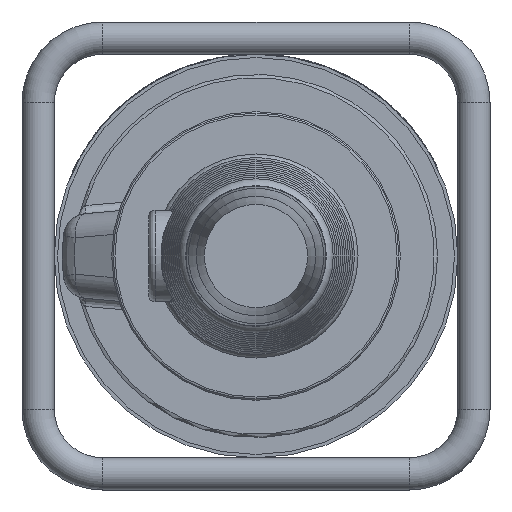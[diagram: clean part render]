
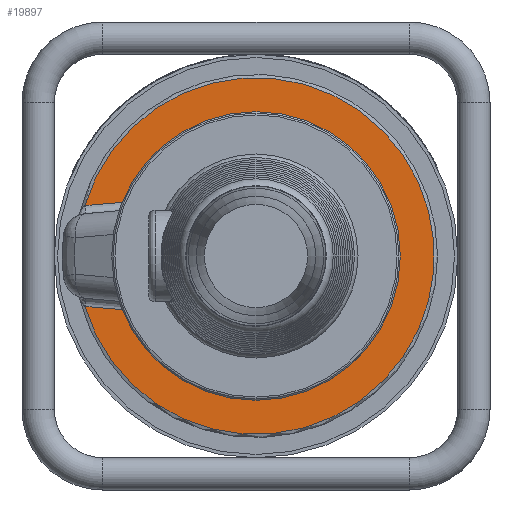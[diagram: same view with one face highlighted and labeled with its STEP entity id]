
A CAD part, left-side view. The second image highlights one B-rep face of the part: STEP entity #19897.
In plain terms, the highlighted planar face has unit normal (-1, 0, 0).
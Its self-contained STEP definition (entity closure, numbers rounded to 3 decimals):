
#1001=PLANE('',#21229);
#2910=LINE('',#43774,#4016);
#2911=LINE('',#43778,#4017);
#4016=VECTOR('',#24998,10.);
#4017=VECTOR('',#25001,10.);
#5101=FACE_OUTER_BOUND('',#6259,.T.);
#6259=EDGE_LOOP('',(#16906,#16907,#16908,#16909));
#6971=CIRCLE('',#21230,110.5);
#6972=CIRCLE('',#21231,74.);
#8899=VERTEX_POINT('',#43772);
#8900=VERTEX_POINT('',#43773);
#8901=VERTEX_POINT('',#43775);
#8902=VERTEX_POINT('',#43777);
#11600=EDGE_CURVE('',#8899,#8900,#2910,.T.);
#11601=EDGE_CURVE('',#8901,#8899,#6971,.T.);
#11602=EDGE_CURVE('',#8902,#8901,#2911,.T.);
#11603=EDGE_CURVE('',#8902,#8900,#6972,.T.);
#16906=ORIENTED_EDGE('',*,*,#11600,.F.);
#16907=ORIENTED_EDGE('',*,*,#11601,.F.);
#16908=ORIENTED_EDGE('',*,*,#11602,.F.);
#16909=ORIENTED_EDGE('',*,*,#11603,.T.);
#19897=ADVANCED_FACE('',(#5101),#1001,.T.);
#21229=AXIS2_PLACEMENT_3D('',#43771,#24996,#24997);
#21230=AXIS2_PLACEMENT_3D('',#43776,#24999,#25000);
#21231=AXIS2_PLACEMENT_3D('',#43779,#25002,#25003);
#24996=DIRECTION('center_axis',(-1.,0.,0.));
#24997=DIRECTION('ref_axis',(0.,0.,
1.));
#24998=DIRECTION('',(0.,-0.996,-0.087));
#24999=DIRECTION('center_axis',(1.,0.,0.));
#25000=DIRECTION('ref_axis',(0.,-1.,0.));
#25001=DIRECTION('',(0.,0.996,-0.087));
#25002=DIRECTION('center_axis',(1.,0.,0.));
#25003=DIRECTION('ref_axis',(0.,-1.,0.));
#43771=CARTESIAN_POINT('Origin',(-20.,-92.25,0.));
#43772=CARTESIAN_POINT('',(-20.,105.991,-31.245));
#43773=CARTESIAN_POINT('',(-20.,65.304,-34.804));
#43774=CARTESIAN_POINT('',(-20.,0.632,-40.462));
#43775=CARTESIAN_POINT('',(-20.,105.991,31.245));
#43776=CARTESIAN_POINT('Origin',(-20.,0.,
0.));
#43777=CARTESIAN_POINT('',(-20.,65.304,34.804));
#43778=CARTESIAN_POINT('',(-20.,0.632,40.462));
#43779=CARTESIAN_POINT('Origin',(-20.,0.,
0.));
